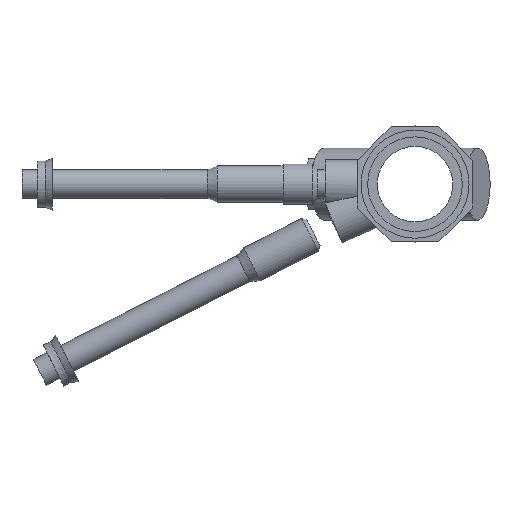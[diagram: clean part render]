
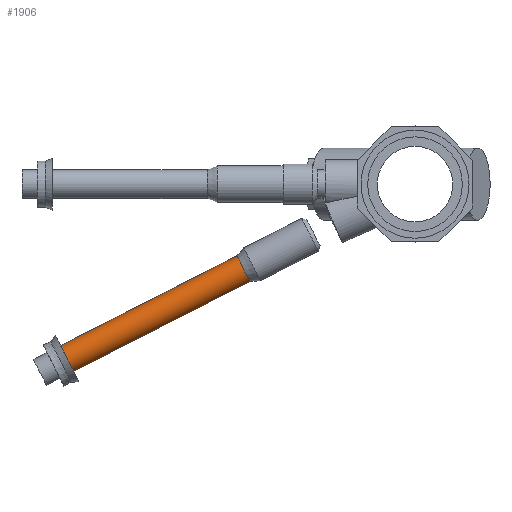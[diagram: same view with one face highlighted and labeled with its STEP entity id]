
A CAD part, left-side view. The second image highlights one B-rep face of the part: STEP entity #1906.
In plain terms, the highlighted cylindrical face has radius 5.08 mm (diameter 10.16 mm), a full revolution.
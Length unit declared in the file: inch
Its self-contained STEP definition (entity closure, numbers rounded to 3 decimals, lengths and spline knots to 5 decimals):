
#142=CYLINDRICAL_SURFACE('',#2043,0.2);
#166=B_SPLINE_CURVE_WITH_KNOTS('',3,(#2898,#2899,#2900,#2901,#2902,#2903,
#2904,#2905,#2906,#2907,#2908,#2909,#2910,#2911,#2912,#2913,#2914,#2915),
 .UNSPECIFIED.,.F.,.F.,(4,2,2,2,2,2,2,2,4),(0.,0.18897,0.37795,
0.56832,0.75868,0.95103,1.14338,
1.33713,1.53088),.UNSPECIFIED.);
#167=B_SPLINE_CURVE_WITH_KNOTS('',3,(#2916,#2917,#2918,#2919,#2920,#2921,
#2922,#2923,#2924,#2925,#2926,#2927,#2928,#2929,#2930,#2931,#2932,#2933),
 .UNSPECIFIED.,.F.,.F.,(4,2,2,2,2,2,2,2,4),(1.53088,1.72463,
1.91838,2.11073,2.30307,2.49344,2.68381,
2.87279,3.06176),.UNSPECIFIED.);
#184=FACE_OUTER_BOUND('',#293,.T.);
#293=EDGE_LOOP('',(#1268,#1269,#1270,#1271,#1272,#1273));
#421=CIRCLE('',#2044,0.2);
#422=CIRCLE('',#2045,0.2);
#529=LINE('',#2993,#666);
#666=VECTOR('',#2304,0.2);
#800=VERTEX_POINT('',#2896);
#801=VERTEX_POINT('',#2897);
#810=VERTEX_POINT('',#2992);
#811=VERTEX_POINT('',#2994);
#977=EDGE_CURVE('',#800,#801,#166,.T.);
#978=EDGE_CURVE('',#801,#800,#167,.T.);
#991=EDGE_CURVE('',#801,#810,#529,.T.);
#992=EDGE_CURVE('',#810,#811,#421,.T.);
#993=EDGE_CURVE('',#811,#810,#422,.T.);
#1268=ORIENTED_EDGE('',*,*,#977,.T.);
#1269=ORIENTED_EDGE('',*,*,#991,.T.);
#1270=ORIENTED_EDGE('',*,*,#992,.T.);
#1271=ORIENTED_EDGE('',*,*,#993,.T.);
#1272=ORIENTED_EDGE('',*,*,#991,.F.);
#1273=ORIENTED_EDGE('',*,*,#978,.T.);
#1906=ADVANCED_FACE('',(#184),#142,.T.);
#2043=AXIS2_PLACEMENT_3D('',#2991,#2302,#2303);
#2044=AXIS2_PLACEMENT_3D('',#2995,#2305,#2306);
#2045=AXIS2_PLACEMENT_3D('',#2996,#2307,#2308);
#2302=DIRECTION('center_axis',(0.,0.891,
-0.454));
#2303=DIRECTION('ref_axis',(0.,-0.454,-0.891));
#2304=DIRECTION('',(0.,-0.891,0.454));
#2305=DIRECTION('center_axis',(0.,0.891,
-0.454));
#2306=DIRECTION('ref_axis',(1.,0.,0.));
#2307=DIRECTION('center_axis',(0.,0.891,
-0.454));
#2308=DIRECTION('ref_axis',(1.,0.,0.));
#2896=CARTESIAN_POINT('',(-0.9,4.74175,-2.59967));
#2897=CARTESIAN_POINT('',(-0.9,4.92109,-2.24212));
#2898=CARTESIAN_POINT('Ctrl Pts',(-0.9,4.74175,-2.59967));
#2899=CARTESIAN_POINT('Ctrl Pts',(-0.8752,4.74175,-2.59967));
#2900=CARTESIAN_POINT('Ctrl Pts',(-0.84873,4.74395,-2.5953));
#2901=CARTESIAN_POINT('Ctrl Pts',(-0.79993,4.75289,-2.57747));
#2902=CARTESIAN_POINT('Ctrl Pts',(-0.77761,4.75964,-2.56401));
#2903=CARTESIAN_POINT('Ctrl Pts',(-0.74208,4.77527,-2.53284));
#2904=CARTESIAN_POINT('Ctrl Pts',(-0.72653,4.78523,-2.51298));
#2905=CARTESIAN_POINT('Ctrl Pts',(-0.70567,4.80711,-2.46936));
#2906=CARTESIAN_POINT('Ctrl Pts',(-0.70035,4.81903,-2.44559));
#2907=CARTESIAN_POINT('Ctrl Pts',(-0.69968,4.84155,-2.4007));
#2908=CARTESIAN_POINT('Ctrl Pts',(-0.7044,4.85365,-2.37658));
#2909=CARTESIAN_POINT('Ctrl Pts',(-0.72434,4.87595,-2.33212));
#2910=CARTESIAN_POINT('Ctrl Pts',(-0.73958,4.88615,-2.31178));
#2911=CARTESIAN_POINT('Ctrl Pts',(-0.77507,4.90237,-2.27945));
#2912=CARTESIAN_POINT('Ctrl Pts',(-0.79772,4.90942,-2.26538));
#2913=CARTESIAN_POINT('Ctrl Pts',(-0.84747,4.91879,-2.24672));
#2914=CARTESIAN_POINT('Ctrl Pts',(-0.87457,4.92109,-2.24212));
#2915=CARTESIAN_POINT('Ctrl Pts',(-0.9,4.92109,-2.24212));
#2916=CARTESIAN_POINT('Ctrl Pts',(-0.9,4.92109,-2.24212));
#2917=CARTESIAN_POINT('Ctrl Pts',(-0.92543,4.92109,-2.24212));
#2918=CARTESIAN_POINT('Ctrl Pts',(-0.95253,4.91879,-2.24672));
#2919=CARTESIAN_POINT('Ctrl Pts',(-1.00228,4.90942,-2.26538));
#2920=CARTESIAN_POINT('Ctrl Pts',(-1.02493,4.90237,-2.27945));
#2921=CARTESIAN_POINT('Ctrl Pts',(-1.06042,4.88615,-2.31178));
#2922=CARTESIAN_POINT('Ctrl Pts',(-1.07566,4.87595,-2.33212));
#2923=CARTESIAN_POINT('Ctrl Pts',(-1.0956,4.85365,-2.37658));
#2924=CARTESIAN_POINT('Ctrl Pts',(-1.10032,4.84155,-2.4007));
#2925=CARTESIAN_POINT('Ctrl Pts',(-1.09965,4.81903,-2.44559));
#2926=CARTESIAN_POINT('Ctrl Pts',(-1.09433,4.80711,-2.46936));
#2927=CARTESIAN_POINT('Ctrl Pts',(-1.07347,4.78523,-2.51299));
#2928=CARTESIAN_POINT('Ctrl Pts',(-1.05792,4.77527,-2.53284));
#2929=CARTESIAN_POINT('Ctrl Pts',(-1.02239,4.75964,-2.56401));
#2930=CARTESIAN_POINT('Ctrl Pts',(-1.00007,4.75289,-2.57747));
#2931=CARTESIAN_POINT('Ctrl Pts',(-0.95127,4.74395,-2.5953));
#2932=CARTESIAN_POINT('Ctrl Pts',(-0.9248,4.74175,-2.59967));
#2933=CARTESIAN_POINT('Ctrl Pts',(-0.9,4.74175,-2.59967));
#2991=CARTESIAN_POINT('Origin',(-0.9,3.79714,-1.8939));
#2992=CARTESIAN_POINT('',(-0.9,2.47564,-0.9961));
#2993=CARTESIAN_POINT('',(-0.9,3.88794,-1.7157));
#2994=CARTESIAN_POINT('',(-0.9,2.29404,-1.3525));
#2995=CARTESIAN_POINT('Origin',(-0.9,2.38484,-1.1743));
#2996=CARTESIAN_POINT('Origin',(-0.9,2.38484,-1.1743));
